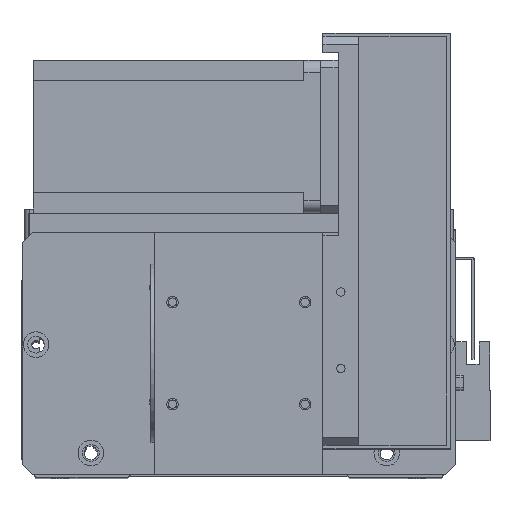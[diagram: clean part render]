
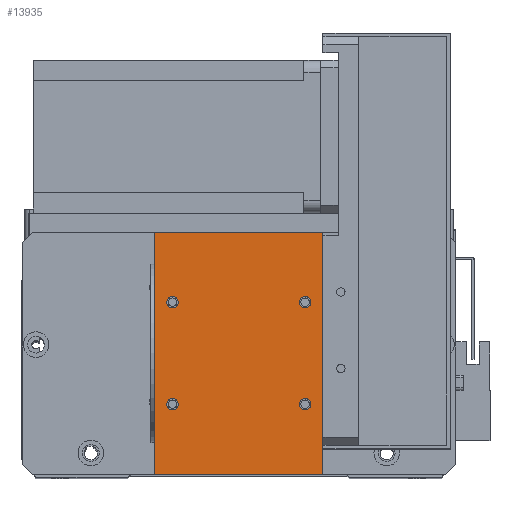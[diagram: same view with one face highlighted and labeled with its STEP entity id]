
A CAD part, top view. The second image highlights one B-rep face of the part: STEP entity #13935.
In plain terms, the highlighted planar face has unit normal (0, 0, 1).
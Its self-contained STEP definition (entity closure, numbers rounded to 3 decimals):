
#1025 = FACE_BOUND ( 'NONE', #19940, .T. ) ;
#1154 = VERTEX_POINT ( 'NONE', #10118 ) ;
#1191 = DIRECTION ( 'NONE',  ( 1., 0., 0. ) ) ;
#1363 = CARTESIAN_POINT ( 'NONE',  ( 66., 0., 2. ) ) ;
#1478 = DIRECTION ( 'NONE',  ( 1., 0., 0. ) ) ;
#1674 = CIRCLE ( 'NONE', #23133, 2.25 ) ;
#1689 = CARTESIAN_POINT ( 'NONE',  ( 7., 27.5, 2. ) ) ;
#1724 = AXIS2_PLACEMENT_3D ( 'NONE', #20367, #25116, #11009 ) ;
#1888 = CARTESIAN_POINT ( 'NONE',  ( 56.75, 67.5, 2. ) ) ;
#2148 = CARTESIAN_POINT ( 'NONE',  ( 59., 67.5, 2. ) ) ;
#2697 = ORIENTED_EDGE ( 'NONE', *, *, #19273, .F. ) ;
#2746 = CARTESIAN_POINT ( 'NONE',  ( 4.75, 27.5, 2. ) ) ;
#4000 = FACE_BOUND ( 'NONE', #21467, .T. ) ;
#4007 = CARTESIAN_POINT ( 'NONE',  ( 7., 67.5, 2. ) ) ;
#4074 = DIRECTION ( 'NONE',  ( 1., 0., 0. ) ) ;
#4379 = AXIS2_PLACEMENT_3D ( 'NONE', #29468, #15407, #1191 ) ;
#4539 = DIRECTION ( 'NONE',  ( 1., 0., 0. ) ) ;
#5140 = VERTEX_POINT ( 'NONE', #13973 ) ;
#5273 = DIRECTION ( 'NONE',  ( 0., 0., 1. ) ) ;
#5425 = ORIENTED_EDGE ( 'NONE', *, *, #24478, .F. ) ;
#5894 = LINE ( 'NONE', #30631, #30259 ) ;
#6370 = DIRECTION ( 'NONE',  ( 1., 0., 0. ) ) ;
#6430 = CARTESIAN_POINT ( 'NONE',  ( 7., 27.5, 2. ) ) ;
#6832 = CARTESIAN_POINT ( 'NONE',  ( 0., 95., 2. ) ) ;
#6838 = AXIS2_PLACEMENT_3D ( 'NONE', #4007, #20493, #6370 ) ;
#7280 = FACE_BOUND ( 'NONE', #10056, .T. ) ;
#8179 = EDGE_CURVE ( 'NONE', #8265, #19685, #1674, .T. ) ;
#8265 = VERTEX_POINT ( 'NONE', #26352 ) ;
#8348 = CARTESIAN_POINT ( 'NONE',  ( 59., 27.5, 2. ) ) ;
#8386 = EDGE_CURVE ( 'NONE', #15273, #23455, #20849, .T. ) ;
#8399 = CIRCLE ( 'NONE', #26462, 2.25 ) ;
#8720 = CARTESIAN_POINT ( 'NONE',  ( 61.25, 67.5, 2. ) ) ;
#8802 = DIRECTION ( 'NONE',  ( 1., 0., 0. ) ) ;
#8895 = DIRECTION ( 'NONE',  ( 0., -1., 0. ) ) ;
#9481 = VERTEX_POINT ( 'NONE', #8720 ) ;
#9525 = ORIENTED_EDGE ( 'NONE', *, *, #29731, .F. ) ;
#9574 = VERTEX_POINT ( 'NONE', #16299 ) ;
#10056 = EDGE_LOOP ( 'NONE', ( #2697, #17535 ) ) ;
#10118 = CARTESIAN_POINT ( 'NONE',  ( 0., 0., 2. ) ) ;
#10736 = DIRECTION ( 'NONE',  ( 1., 0., 0. ) ) ;
#10905 = CARTESIAN_POINT ( 'NONE',  ( 0., 0., 2. ) ) ;
#11009 = DIRECTION ( 'NONE',  ( -1., 0., 0. ) ) ;
#11140 = CARTESIAN_POINT ( 'NONE',  ( 66., 95., 2. ) ) ;
#11742 = CARTESIAN_POINT ( 'NONE',  ( 7., 67.5, 2. ) ) ;
#12055 = EDGE_CURVE ( 'NONE', #23396, #9481, #30316, .T. ) ;
#12092 = ORIENTED_EDGE ( 'NONE', *, *, #13907, .T. ) ;
#12375 = EDGE_LOOP ( 'NONE', ( #30150, #12092, #12654, #18899 ) ) ;
#12654 = ORIENTED_EDGE ( 'NONE', *, *, #12926, .T. ) ;
#12926 = EDGE_CURVE ( 'NONE', #27397, #15273, #5894, .T. ) ;
#12933 = CIRCLE ( 'NONE', #6838, 2.25 ) ;
#12952 = ORIENTED_EDGE ( 'NONE', *, *, #24572, .F. ) ;
#13645 = FACE_BOUND ( 'NONE', #17081, .T. ) ;
#13907 = EDGE_CURVE ( 'NONE', #1154, #27397, #26119, .T. ) ;
#13935 = ADVANCED_FACE ( 'NONE', ( #13645, #4000, #1025, #7280, #25401 ), #15698, .F. ) ;
#13973 = CARTESIAN_POINT ( 'NONE',  ( 9.25, 27.5, 2. ) ) ;
#14158 = DIRECTION ( 'NONE',  ( 1., 0., 0. ) ) ;
#14196 = DIRECTION ( 'NONE',  ( 0., 1., 0. ) ) ;
#15273 = VERTEX_POINT ( 'NONE', #11140 ) ;
#15407 = DIRECTION ( 'NONE',  ( 0., 0., 1. ) ) ;
#15698 = PLANE ( 'NONE',  #1724 ) ;
#15974 = CARTESIAN_POINT ( 'NONE',  ( 0., 0., 2. ) ) ;
#16299 = CARTESIAN_POINT ( 'NONE',  ( 56.75, 27.5, 2. ) ) ;
#16695 = CIRCLE ( 'NONE', #30522, 2.25 ) ;
#17076 = VECTOR ( 'NONE', #8895, 1000. ) ;
#17081 = EDGE_LOOP ( 'NONE', ( #22752, #12952 ) ) ;
#17535 = ORIENTED_EDGE ( 'NONE', *, *, #22288, .F. ) ;
#17544 = CARTESIAN_POINT ( 'NONE',  ( 0., 95., 2. ) ) ;
#18236 = DIRECTION ( 'NONE',  ( 0., 0., 1. ) ) ;
#18251 = EDGE_CURVE ( 'NONE', #9481, #23396, #19677, .T. ) ;
#18428 = VERTEX_POINT ( 'NONE', #2746 ) ;
#18679 = DIRECTION ( 'NONE',  ( 0., 0., 1. ) ) ;
#18899 = ORIENTED_EDGE ( 'NONE', *, *, #8386, .T. ) ;
#19273 = EDGE_CURVE ( 'NONE', #5140, #18428, #16695, .T. ) ;
#19333 = ORIENTED_EDGE ( 'NONE', *, *, #12055, .F. ) ;
#19398 = CARTESIAN_POINT ( 'NONE',  ( 59., 67.5, 2. ) ) ;
#19677 = CIRCLE ( 'NONE', #29705, 2.25 ) ;
#19685 = VERTEX_POINT ( 'NONE', #26968 ) ;
#19873 = VECTOR ( 'NONE', #1478, 1000. ) ;
#19940 = EDGE_LOOP ( 'NONE', ( #9525, #5425 ) ) ;
#20367 = CARTESIAN_POINT ( 'NONE',  ( 0., 0., 2. ) ) ;
#20390 = CIRCLE ( 'NONE', #4379, 2.25 ) ;
#20493 = DIRECTION ( 'NONE',  ( 0., 0., 1. ) ) ;
#20642 = CIRCLE ( 'NONE', #24859, 2.25 ) ;
#20649 = AXIS2_PLACEMENT_3D ( 'NONE', #19398, #5273, #21766 ) ;
#20849 = LINE ( 'NONE', #17544, #27169 ) ;
#21467 = EDGE_LOOP ( 'NONE', ( #23351, #19333 ) ) ;
#21663 = CARTESIAN_POINT ( 'NONE',  ( 61.25, 27.5, 2. ) ) ;
#21766 = DIRECTION ( 'NONE',  ( 1., 0., 0. ) ) ;
#22230 = DIRECTION ( 'NONE',  ( -1., 0., 0. ) ) ;
#22288 = EDGE_CURVE ( 'NONE', #18428, #5140, #8399, .T. ) ;
#22752 = ORIENTED_EDGE ( 'NONE', *, *, #8179, .F. ) ;
#22935 = DIRECTION ( 'NONE',  ( 0., 0., 1. ) ) ;
#23133 = AXIS2_PLACEMENT_3D ( 'NONE', #11742, #28231, #14158 ) ;
#23274 = LINE ( 'NONE', #15974, #17076 ) ;
#23351 = ORIENTED_EDGE ( 'NONE', *, *, #18251, .F. ) ;
#23396 = VERTEX_POINT ( 'NONE', #1888 ) ;
#23455 = VERTEX_POINT ( 'NONE', #6832 ) ;
#24478 = EDGE_CURVE ( 'NONE', #9574, #26140, #20642, .T. ) ;
#24572 = EDGE_CURVE ( 'NONE', #19685, #8265, #12933, .T. ) ;
#24857 = DIRECTION ( 'NONE',  ( 0., 0., 1. ) ) ;
#24859 = AXIS2_PLACEMENT_3D ( 'NONE', #8348, #24857, #10736 ) ;
#25116 = DIRECTION ( 'NONE',  ( 0., 0., -1. ) ) ;
#25401 = FACE_OUTER_BOUND ( 'NONE', #12375, .T. ) ;
#26119 = LINE ( 'NONE', #10905, #19873 ) ;
#26140 = VERTEX_POINT ( 'NONE', #21663 ) ;
#26352 = CARTESIAN_POINT ( 'NONE',  ( 9.25, 67.5, 2. ) ) ;
#26462 = AXIS2_PLACEMENT_3D ( 'NONE', #6430, #22935, #8802 ) ;
#26968 = CARTESIAN_POINT ( 'NONE',  ( 4.75, 67.5, 2. ) ) ;
#27169 = VECTOR ( 'NONE', #22230, 1000. ) ;
#27397 = VERTEX_POINT ( 'NONE', #1363 ) ;
#28231 = DIRECTION ( 'NONE',  ( 0., 0., 1. ) ) ;
#29468 = CARTESIAN_POINT ( 'NONE',  ( 59., 27.5, 2. ) ) ;
#29705 = AXIS2_PLACEMENT_3D ( 'NONE', #2148, #18679, #4539 ) ;
#29731 = EDGE_CURVE ( 'NONE', #26140, #9574, #20390, .T. ) ;
#30150 = ORIENTED_EDGE ( 'NONE', *, *, #30533, .T. ) ;
#30259 = VECTOR ( 'NONE', #14196, 1000. ) ;
#30316 = CIRCLE ( 'NONE', #20649, 2.25 ) ;
#30522 = AXIS2_PLACEMENT_3D ( 'NONE', #1689, #18236, #4074 ) ;
#30533 = EDGE_CURVE ( 'NONE', #23455, #1154, #23274, .T. ) ;
#30631 = CARTESIAN_POINT ( 'NONE',  ( 66., 0., 2. ) ) ;
